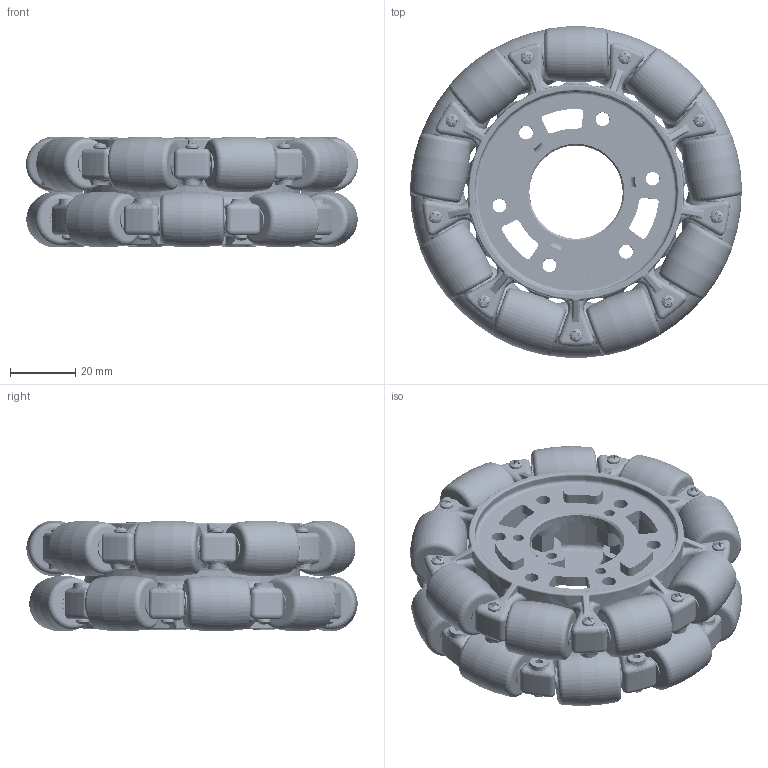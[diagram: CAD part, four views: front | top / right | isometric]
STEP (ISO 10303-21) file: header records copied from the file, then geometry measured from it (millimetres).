
FILE_DESCRIPTION (( 'STEP AP203' ), '1' );
FILE_NAME ('217-2584-STEP-20141006.STEP', '2014-10-06T16:22:33', ( 'IFMI-VEX04' ), ( '' ), 'SwSTEP 2.0', 'SolidWorks 2014', '' );
FILE_SCHEMA (( 'CONFIG_CONTROL_DESIGN' ));
Length unit declared in the file: inch
Products named in the file (8): 217-2584-004 Rev1; 217-2584-003 Rev4; BEAM-0750; 90116A020_90116A020; 217-2584-005 Rev1 A; 217-2584-STEP-20141006; 217-2584-002 Rev2; 217-2584-001 Rev1
Assembly tree (99 placements, depth 2):
  217-2584-STEP-20141006
    217-2584-002 Rev2
    217-2584-001 Rev1  x18
    217-2584-004 Rev1  x18
    217-2584-003 Rev4  x2
    BEAM-0750  x6
    90116A020_90116A020  x18
    217-2584-005 Rev1 A  x36
Bounding box: 101.64 x 101.41 x 33.97 mm (x, y, z)
Volume: 137101.7 mm3; surface area: 94758.4 mm2
Topology: 99 solids, 99 shells, 4380 faces, 10673 edges, 6447 vertices
Faces by surface type: cylinder 1456, plane 1256, torus 826, bspline 426, sphere 280, cone 136
Entity records: 72994 total; most frequent: CARTESIAN_POINT 22916, DIRECTION 10309, ORIENTED_EDGE 9732, EDGE_CURVE 4866, AXIS2_PLACEMENT_3D 4256, VERTEX_POINT 2946, CIRCLE 2425, EDGE_LOOP 2148
